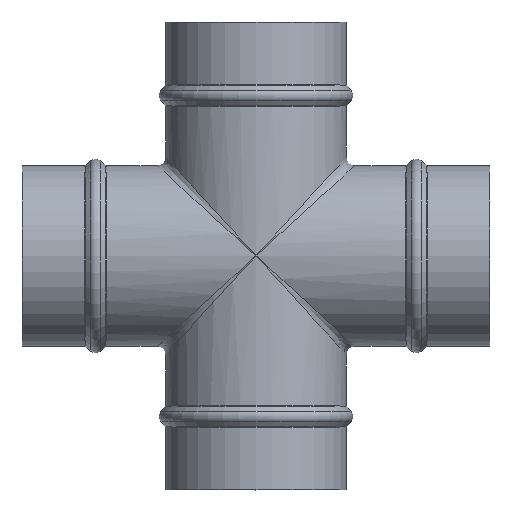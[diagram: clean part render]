
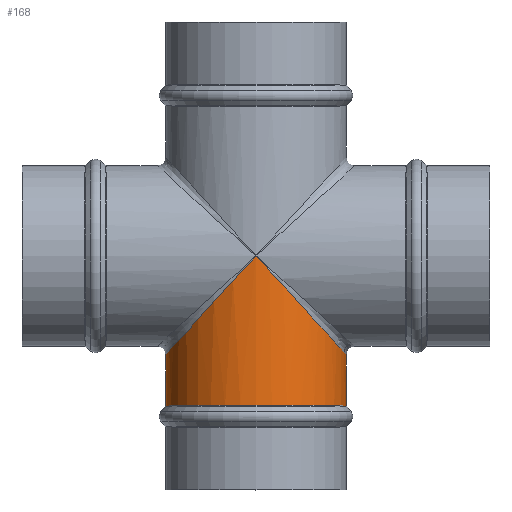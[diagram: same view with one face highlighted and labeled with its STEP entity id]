
A CAD part, top view. The second image highlights one B-rep face of the part: STEP entity #168.
In plain terms, the highlighted cylindrical face has radius 42.5 mm (diameter 85 mm), a full revolution.
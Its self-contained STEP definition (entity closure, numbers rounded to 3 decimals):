
#168=ADVANCED_FACE('',(#281,#282),#216,.T.);
#216=CYLINDRICAL_SURFACE('',#852,42.5);
#231=ELLIPSE('',#850,62.996,42.5);
#232=ELLIPSE('',#851,62.996,42.5);
#281=FACE_BOUND('',#401,.T.);
#282=FACE_BOUND('',#402,.T.);
#401=EDGE_LOOP('',(#527,#528));
#402=EDGE_LOOP('',(#529));
#527=ORIENTED_EDGE('',*,*,#704,.T.);
#528=ORIENTED_EDGE('',*,*,#705,.T.);
#529=ORIENTED_EDGE('',*,*,#703,.F.);
#623=VERTEX_POINT('',#1201);
#624=VERTEX_POINT('',#1202);
#643=VERTEX_POINT('',#1260);
#703=EDGE_CURVE('',#643,#643,#767,.T.);
#704=EDGE_CURVE('',#624,#623,#231,.T.);
#705=EDGE_CURVE('',#623,#624,#232,.T.);
#767=CIRCLE('',#848,42.5);
#848=AXIS2_PLACEMENT_3D('',#1259,#1022,#1023);
#850=AXIS2_PLACEMENT_3D('',#1262,#1026,#1027);
#851=AXIS2_PLACEMENT_3D('',#1263,#1028,#1029);
#852=AXIS2_PLACEMENT_3D('',#1264,#1030,#1031);
#1022=DIRECTION('',(0.,-1.,0.));
#1023=DIRECTION('',(1.,0.,0.));
#1026=DIRECTION('',(0.738,-0.675,0.));
#1027=DIRECTION('',(0.675,0.738,0.));
#1028=DIRECTION('',(-0.738,-0.675,0.));
#1029=DIRECTION('',(0.675,-0.738,0.));
#1030=DIRECTION('',(0.,-1.,0.));
#1031=DIRECTION('',(1.,0.,0.));
#1201=CARTESIAN_POINT('',(0.,0.,-42.5));
#1202=CARTESIAN_POINT('',(0.,0.,42.5));
#1259=CARTESIAN_POINT('',(0.,-70.343,0.));
#1260=CARTESIAN_POINT('',(42.5,-70.343,0.));
#1262=CARTESIAN_POINT('',(0.,0.,0.));
#1263=CARTESIAN_POINT('',(0.,0.,0.));
#1264=CARTESIAN_POINT('',(0.,110.,0.));
